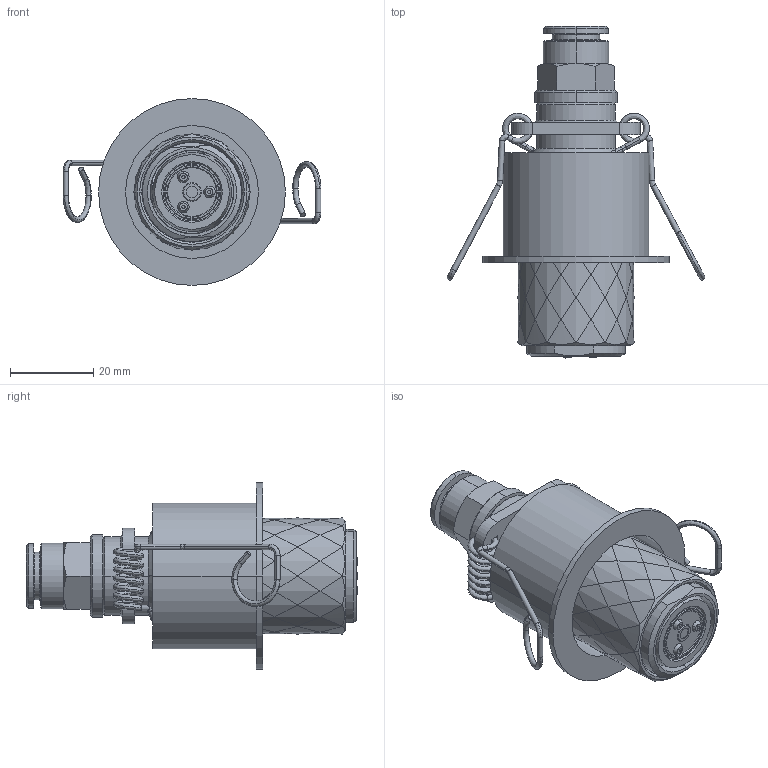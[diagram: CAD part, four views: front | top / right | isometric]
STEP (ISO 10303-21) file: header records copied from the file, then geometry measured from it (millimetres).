
FILE_DESCRIPTION(/* description */ (''),/* implementation_level */ '2;1');
FILE_NAME(/* name */ 'F3710XM',/* time_stamp */ '2025-05-16T17:50:07+02:00',/* author */ (''),/* organization */ (''),/* preprocessor_version */ 'ST-DEVELOPER v19.2',/* originating_system */ 'Rhino 8.1',/* authorisation */ '');
FILE_SCHEMA (('CONFIG_CONTROL_DESIGN'));
Products named in the file (1): Document
Bounding box: 62.1 x 79.97 x 45 mm (x, y, z)
Volume: 33562.4 mm3; surface area: 28579.2 mm2
Topology: 12 solids, 12 shells, 2814 faces, 7353 edges, 4841 vertices
Faces by surface type: plane 2302, cylinder 272, bspline 240
Entity records: 112588 total; most frequent: CARTESIAN_POINT 59044, ORIENTED_EDGE 14706, EDGE_CURVE 7353, B_SPLINE_CURVE_WITH_KNOTS 6750, VERTEX_POINT 4841, DIRECTION 3782, AXIS2_PLACEMENT_3D 3178, EDGE_LOOP 3110
